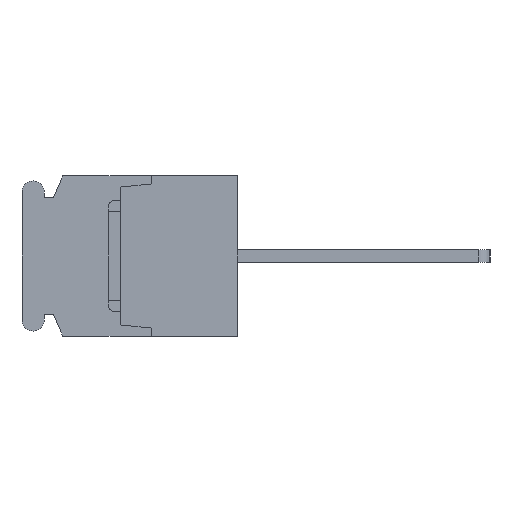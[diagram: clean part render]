
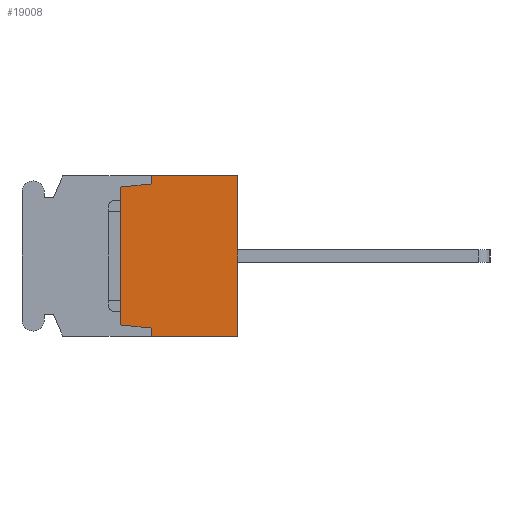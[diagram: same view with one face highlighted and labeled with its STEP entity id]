
A CAD part, left-side view. The second image highlights one B-rep face of the part: STEP entity #19008.
In plain terms, the highlighted planar face has unit normal (-1, 0, 0).
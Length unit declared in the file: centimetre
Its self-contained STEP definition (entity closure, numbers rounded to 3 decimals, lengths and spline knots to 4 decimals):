
#1268=VECTOR('',#20979,1.);
#1305=VECTOR('',#21017,1.);
#1371=VECTOR('',#21099,1.);
#2362=VECTOR('',#23648,1.);
#2363=VECTOR('',#23649,1.);
#2364=VECTOR('',#23650,1.);
#2365=VECTOR('',#23651,1.);
#2366=VECTOR('',#23652,1.);
#3362=LINE('',#26265,#1268);
#3399=LINE('',#26338,#1305);
#3465=LINE('',#26473,#1371);
#4456=LINE('',#29778,#2362);
#4457=LINE('',#29780,#2363);
#4458=LINE('',#29782,#2364);
#4459=LINE('',#29784,#2365);
#4460=LINE('',#29786,#2366);
#5478=VERTEX_POINT('',#26262);
#5479=VERTEX_POINT('',#26264);
#5515=VERTEX_POINT('',#26339);
#5571=VERTEX_POINT('',#26472);
#6514=VERTEX_POINT('',#29779);
#6515=VERTEX_POINT('',#29781);
#6516=VERTEX_POINT('',#29783);
#6517=VERTEX_POINT('',#29785);
#7990=EDGE_CURVE('',#5479,#5478,#3362,.T.);
#8027=EDGE_CURVE('',#5478,#5515,#3399,.T.);
#8095=EDGE_CURVE('',#5571,#5479,#3465,.T.);
#9558=EDGE_CURVE('',#6514,#5571,#4456,.T.);
#9559=EDGE_CURVE('',#6515,#6514,#4457,.T.);
#9560=EDGE_CURVE('',#6516,#6515,#4458,.T.);
#9561=EDGE_CURVE('',#6517,#6516,#4459,.T.);
#9562=EDGE_CURVE('',#5515,#6517,#4460,.T.);
#14720=ORIENTED_EDGE('',*,*,#7990,.F.);
#14721=ORIENTED_EDGE('',*,*,#8095,.F.);
#14722=ORIENTED_EDGE('',*,*,#9558,.F.);
#14723=ORIENTED_EDGE('',*,*,#9559,.F.);
#14724=ORIENTED_EDGE('',*,*,#9560,.F.);
#14725=ORIENTED_EDGE('',*,*,#9561,.F.);
#14726=ORIENTED_EDGE('',*,*,#9562,.F.);
#14727=ORIENTED_EDGE('',*,*,#8027,.F.);
#16728=EDGE_LOOP('',(#14720,#14721,#14722,#14723,#14724,#14725,#14726,#14727));
#17928=FACE_BOUND('',#16728,.T.);
#19008=ADVANCED_FACE('',(#17928),#19863,.F.);
#19863=PLANE('',#32562);
#20979=DIRECTION('',(0.,0.,-1.));
#21017=DIRECTION('',(0.,1.,0.));
#21099=DIRECTION('',(0.,-1.,0.));
#23647=DIRECTION('',(1.,0.,0.));
#23648=DIRECTION('',(0.,0.,1.));
#23649=DIRECTION('',(0.,-0.995,0.1));
#23650=DIRECTION('',(0.,0.,1.));
#23651=DIRECTION('',(0.,0.995,0.1));
#23652=DIRECTION('',(0.,0.,1.));
#26262=CARTESIAN_POINT('',(-1.84,0.,-0.65));
#26264=CARTESIAN_POINT('',(-1.84,0.,0.65));
#26265=CARTESIAN_POINT('',(-1.84,0.,0.65));
#26338=CARTESIAN_POINT('',(-1.84,0.,-0.65));
#26339=CARTESIAN_POINT('',(-1.84,0.7,-0.65));
#26472=CARTESIAN_POINT('',(-1.84,0.7,0.65));
#26473=CARTESIAN_POINT('',(-1.84,0.7,0.65));
#29777=CARTESIAN_POINT('',(-1.84,0.4626,0.));
#29778=CARTESIAN_POINT('',(-1.84,0.7,0.585));
#29779=CARTESIAN_POINT('',(-1.84,0.7,0.585));
#29780=CARTESIAN_POINT('',(-1.84,0.95,0.56));
#29781=CARTESIAN_POINT('',(-1.84,0.95,0.56));
#29782=CARTESIAN_POINT('',(-1.84,0.95,-0.56));
#29783=CARTESIAN_POINT('',(-1.84,0.95,-0.56));
#29784=CARTESIAN_POINT('',(-1.84,0.7,-0.585));
#29785=CARTESIAN_POINT('',(-1.84,0.7,-0.585));
#29786=CARTESIAN_POINT('',(-1.84,0.7,-0.65));
#32562=AXIS2_PLACEMENT_3D('',#29777,#23647,$);
